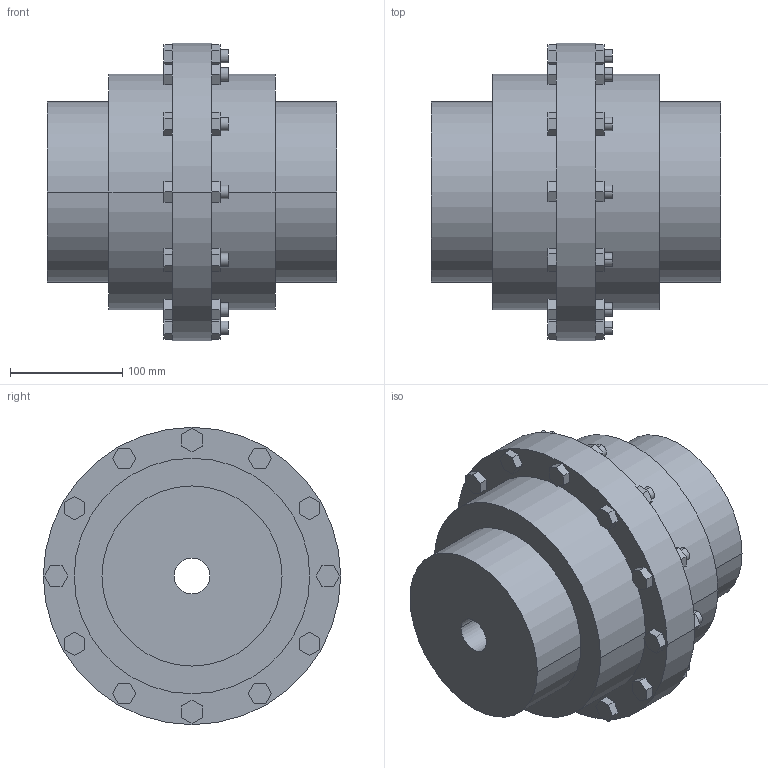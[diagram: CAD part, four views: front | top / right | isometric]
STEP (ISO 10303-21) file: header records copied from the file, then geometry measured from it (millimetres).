
FILE_DESCRIPTION((''),'2;1');
FILE_NAME('A18998200-0_ASM','2018-10-02T',('AB_Roschiwal'),('RENK AG'),'PRO/ENGINEER BY PARAMETRIC TECHNOLOGY CORPORATION, 2015440','PRO/ENGINEER BY PARAMETRIC TECHNOLOGY CORPORATION, 2015440','');
FILE_SCHEMA(('CONFIG_CONTROL_DESIGN'));
Length unit declared in the file: millimetre
Products named in the file (3): LBK100_GEHAEUSE; LBK100_NABE; A18998200-0_ASM
Assembly tree (3 placements, depth 2):
  A18998200-0_ASM
    LBK100_GEHAEUSE
    LBK100_NABE  x2
Bounding box: 258 x 265 x 265 mm (x, y, z)
Volume: 7407712.9 mm3; surface area: 555268.2 mm2
Topology: 3 solids, 3 shells, 246 faces, 588 edges, 392 vertices
Faces by surface type: plane 194, cylinder 52
Entity records: 6860 total; most frequent: CARTESIAN_POINT 1180, DIRECTION 1132, ORIENTED_EDGE 1128, EDGE_CURVE 564, VECTOR 476, LINE 476, VERTEX_POINT 376, AXIS2_PLACEMENT_3D 328
